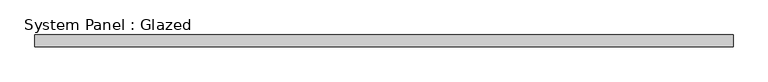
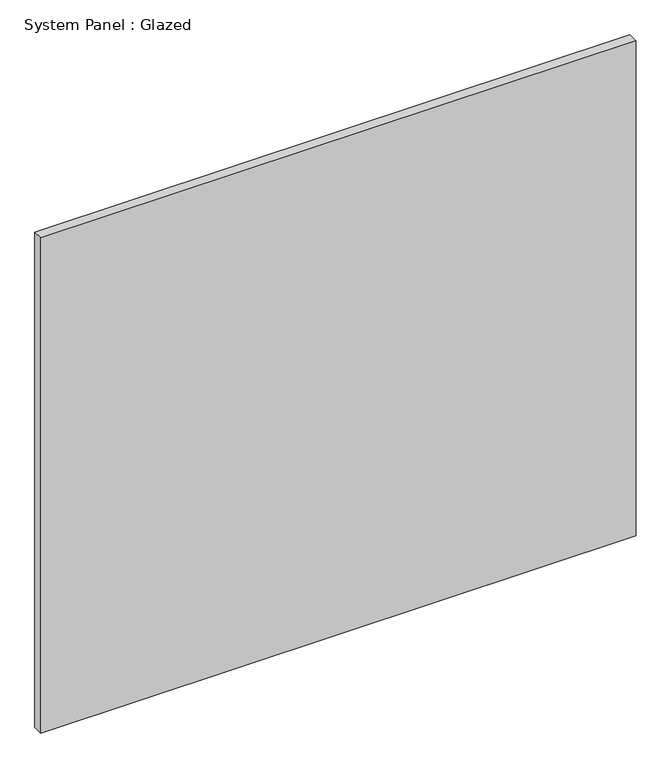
"""IFC4 building model written with IfcOpenShell, lengths in millimetres: plate geometry, System Panel : Glazed."""

from ifc_helpers import new_model, si_unit, origin, origin_with_axes, place, context, project, spatial, polyline, outline, extrude, source, transform, mapped, element, save


def system_panel_glazed_c856ec9c(model_context):
    return source(origin(), model_context, "Body", "SweptSolid", [
        extrude(outline(polyline([(725.0, -49.5), (-725.0, -49.5), (-725.0, -24.5), (725.0, -24.5), (725.0, -49.5)])), origin_with_axes(), (0.0, 0.0, 1.0), 1275.0),
    ])


if __name__ == "__main__":
    model = new_model("IFC4")
    model_context = context("Model", 3, world=origin())
    ifc_project = project(units=[si_unit("LENGTHUNIT", "METRE", prefix="MILLI")], contexts=[model_context])
    site = spatial("IfcSite", under=ifc_project)
    building = spatial("IfcBuilding", under=site)
    placement = place(None, origin())
    system_panel_glazed_shape = system_panel_glazed_c856ec9c(model_context)
    element("IfcPlate", 1, ObjectType="System Panel : Glazed", at=placement, inside=building, context=model_context, shape_type="MappedRepresentation", body=[
        mapped(system_panel_glazed_shape, transform((0.0, 0.0, 0.0), x_axis=(1.0, 0.0, 0.0), y_axis=(0.0, 1.0, 0.0), z_axis=(0.0, 0.0, 1.0))),
    ])
    save(model, "model.ifc")
